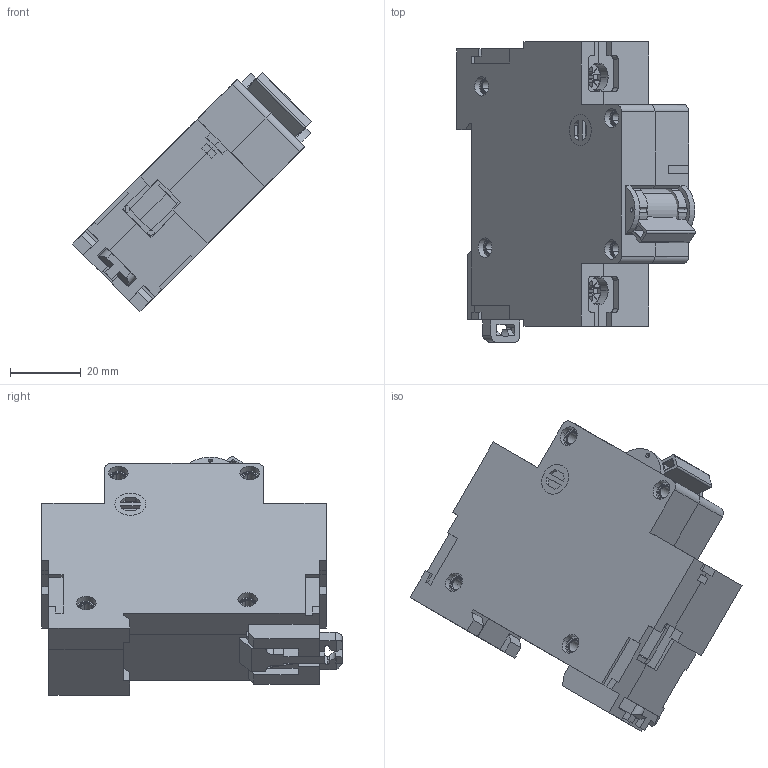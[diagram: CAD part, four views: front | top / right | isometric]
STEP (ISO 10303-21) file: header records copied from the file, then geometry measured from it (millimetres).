
FILE_DESCRIPTION (( 'STEP AP203' ), '1' );
FILE_NAME ('臍47-100-1.STEP', '2014-03-14T06:02:03', ( 'admin' ), ( 'KEAZ' ), 'SwSTEP 2.0', 'SolidWorks 2007', '' );
FILE_SCHEMA (( 'CONFIG_CONTROL_DESIGN' ));
Length unit declared in the file: millimetre
Products named in the file (11): ìóëÿæ ðåéêè ÂÀ47-100_Ïî óìîë÷àíèþ; 鎔艜 臍47-100; 臍47-100-1; Áîêîâèíà ëåâàÿ ÂÀ47-100_Ïî óìîë÷àíèþ; Áîêîâèíà ïðàâàÿ ÂÀ47-100_Ïî óìîë÷àíèþ; Çàù¸ëêà_îò ÂÌ63_New_ÃÆÈÊ.741358.031_äëÿ ñáîðêè; Çàêëåïêà ÂÀ47-100_1-õ; Ðó÷êà ÂÀ47-100_Ïî óìîë÷àíèþ; Êîëîäêà ÂÀ47-100_Ïî óìîë÷àíèþ; Êðóãëàÿ çàãëóøêà ÂÀ47-100_Ïî óìîë÷àíèþ; Ñòåêëî èíäèêàòîðà ÂÀ47-100_Ïî óìîë÷àíèþ
Assembly tree (16 placements, depth 2):
  臍47-100-1
    鎔艜 臍47-100  x2
    Çàêëåïêà ÂÀ47-100_1-õ  x4
    Ñòåêëî èíäèêàòîðà ÂÀ47-100_Ïî óìîë÷àíèþ
    Êðóãëàÿ çàãëóøêà ÂÀ47-100_Ïî óìîë÷àíèþ  x2
    Êîëîäêà ÂÀ47-100_Ïî óìîë÷àíèþ  x2
    Çàù¸ëêà_îò ÂÌ63_New_ÃÆÈÊ.741358.031_äëÿ ñáîðêè
    ìóëÿæ ðåéêè ÂÀ47-100_Ïî óìîë÷àíèþ
    Ðó÷êà ÂÀ47-100_Ïî óìîë÷àíèþ
    Áîêîâèíà ïðàâàÿ ÂÀ47-100_Ïî óìîë÷àíèþ
    Áîêîâèíà ëåâàÿ ÂÀ47-100_Ïî óìîë÷àíèþ
Bounding box: 67.66 x 85.1 x 67.66 mm (x, y, z)
Volume: 102084.4 mm3; surface area: 38189.9 mm2
Topology: 16 solids, 16 shells, 724 faces, 1849 edges, 1183 vertices
Faces by surface type: plane 485, cylinder 199, torus 40
Entity records: 18390 total; most frequent: CARTESIAN_POINT 3063, ORIENTED_EDGE 2924, DIRECTION 2915, EDGE_CURVE 1462, VECTOR 1093, LINE 1093, VERTEX_POINT 947, AXIS2_PLACEMENT_3D 911
